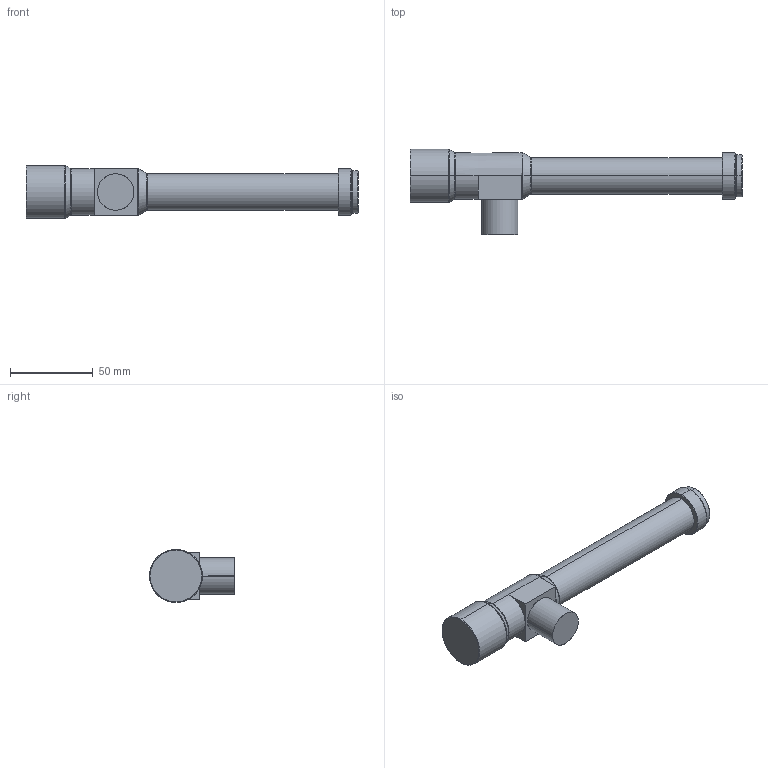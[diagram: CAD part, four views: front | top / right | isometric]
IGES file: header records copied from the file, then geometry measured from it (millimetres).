
Start section: SolidWorks IGES file using analytic representation for surfaces
Global section: file name: C:\Users\Administrator\Desktop\WWH80-108CTV3.IGS; native system: SolidWorks 2017; preprocessor: SolidWorks 2017; author: Administrator; date: 210514.180022; units: millimetre
Bounding box: 200.6 x 51.4 x 32 mm (x, y, z)
Surface area: 19443.9 mm2 (no closed solid volume)
Topology: 0 solids, 0 shells, 48 faces, 584 edges, 584 vertices
Faces by surface type: revolution 27, bspline 21
